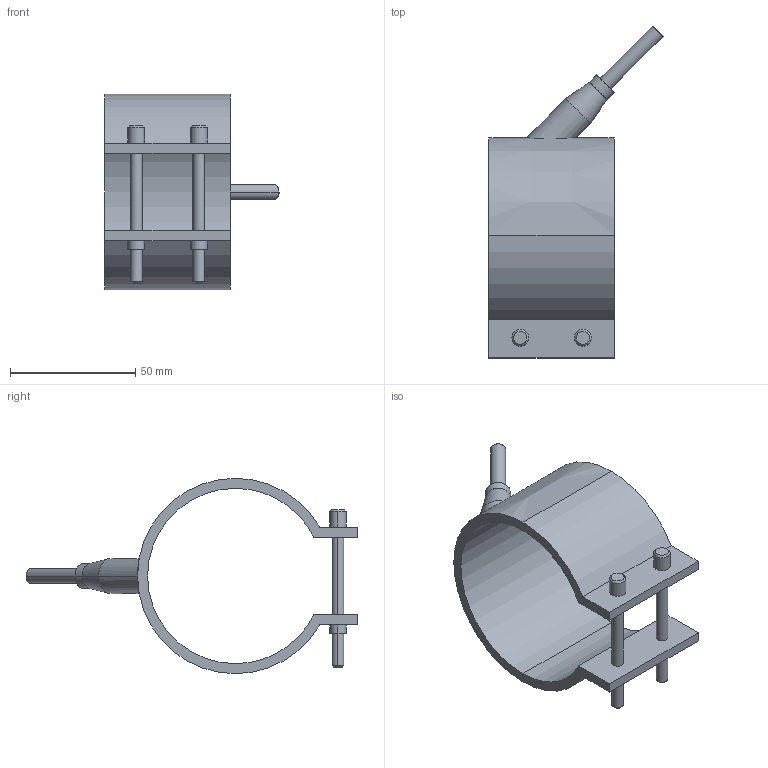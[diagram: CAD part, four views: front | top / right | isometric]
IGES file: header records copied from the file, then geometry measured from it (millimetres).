
Start section: START RECORD GO HERE.
Global section: file name: 29070050.igs; native system: DASSAULT SYSTEMES CATIA V5 R20 - www.3ds.com; preprocessor: CATIA Version 5 Release 20 ; author: Utente; organization: NB04-ASUS; date: 20210327.104215; units: millimetre
Bounding box: 69.55 x 132.55 x 78 mm (x, y, z)
Surface area: 28417.9 mm2 (no closed solid volume)
Topology: 0 solids, 0 shells, 54 faces, 252 edges, 252 vertices
Faces by surface type: revolution 38, plane 16
